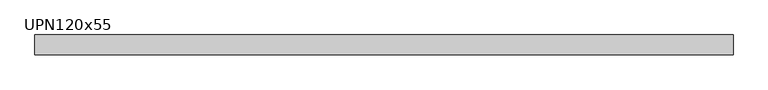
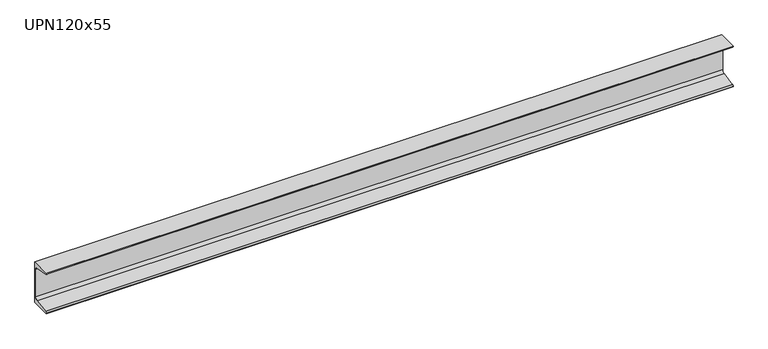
"""IFC4 building model written with IfcOpenShell, lengths in millimetres: beam geometry, M_MC Shapes : UPN120x55."""

from ifc_helpers import new_model, si_unit, point, frame, frame_2d, origin, place, context, project, spatial, polyline, circle_curve, trimmed, segment, composite_curve, outline, extrude, source, transform, mapped, element, save


def upn120x55_f3862d68(model_context):
    return source(origin(), model_context, "Body", "SweptSolid", [
        extrude(outline(composite_curve([segment(polyline([(10.9, 60.0), (10.9, -60.0), (-44.1, -60.0), (-44.1, -59.0253247)]), True, "CONTINUOUS"), segment(trimmed(circle_curve(frame_2d((-40.15, -59.0253247)), 3.95), [point((-44.1, -59.0253247))], [point((-40.7993773, -55.1290689))], False, "CARTESIAN"), True, "CONTINUOUS"), segment(polyline([(-40.7993773, -55.1290689), (-0.2512455, -48.3710335)]), True, "CONTINUOUS"), segment(trimmed(circle_curve(frame_2d((-1.55, -40.5785219)), 7.9), [point((-0.2512455, -48.3710335))], [point((6.35, -40.5785219))], True, "CARTESIAN"), True, "CONTINUOUS"), segment(polyline([(6.35, -40.5785219), (6.35, 40.5785219)]), True, "CONTINUOUS"), segment(trimmed(circle_curve(frame_2d((-1.55, 40.5785219)), 7.9), [point((6.35, 40.5785219))], [point((-0.2512455, 48.3710335))], True, "CARTESIAN"), True, "CONTINUOUS"), segment(polyline([(-0.2512455, 48.3710335), (-40.7993773, 55.1290689)]), True, "CONTINUOUS"), segment(trimmed(circle_curve(frame_2d((-40.15, 59.0253247)), 3.95), [point((-40.7993773, 55.1290689))], [point((-44.1, 59.0253247))], False, "CARTESIAN"), True, "CONTINUOUS"), segment(polyline([(-44.1, 59.0253247), (-44.1, 60.0), (10.9, 60.0)]), True, "CONTINUOUS")], self_intersect=False)), frame((-958.9, 0.0, 0.0), z_axis=(1.0, 0.0, 0.0), x_axis=(0.0, 1.0, 0.0)), (0.0, 0.0, 1.0), 1917.8),
    ])


if __name__ == "__main__":
    model = new_model("IFC4")
    model_context = context("Model", 3, world=origin())
    ifc_project = project(units=[si_unit("LENGTHUNIT", "METRE", prefix="MILLI")], contexts=[model_context])
    site = spatial("IfcSite", under=ifc_project)
    building = spatial("IfcBuilding", under=site)
    placement = place(None, origin())
    upn120x55_shape = upn120x55_f3862d68(model_context)
    element("IfcBeam", 1, ObjectType="M_MC Shapes : UPN120x55", at=placement, inside=building, context=model_context, shape_type="MappedRepresentation", body=[
        mapped(upn120x55_shape, transform((0.0, 0.0, 0.0), x_axis=(1.0, 0.0, 0.0), y_axis=(0.0, 1.0, 0.0), z_axis=(0.0, 0.0, 1.0))),
    ])
    save(model, "model.ifc")
